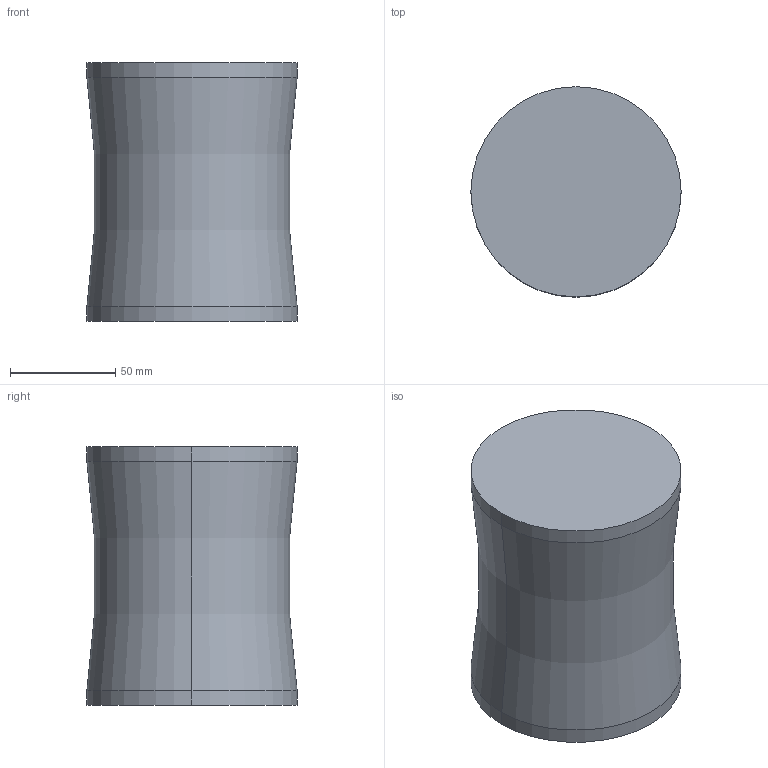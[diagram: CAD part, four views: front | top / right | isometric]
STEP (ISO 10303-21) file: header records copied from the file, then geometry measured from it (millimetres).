
FILE_DESCRIPTION(/* description */ (''),/* implementation_level */ '2;1');
FILE_NAME(/* name */ '3d_ex100120_06516_r00.stp',/* time_stamp */ '2011-01-10T14:15:38+09:00',/* author */ ('MISUMI'),/* organization */ (''),/* preprocessor_version */ 'ST-DEVELOPER v11',/* originating_system */ 'UGS - NX 5.0',/* authorisation */ '');
FILE_SCHEMA (('CONFIG_CONTROL_DESIGN'));
Length unit declared in the file: millimetre
Products named in the file (1): 3d_ex100120_06516_r00
Bounding box: 100 x 100 x 123 mm (x, y, z)
Volume: 877487 mm3; surface area: 52639 mm2
Topology: 1 solids, 1 shells, 8 faces, 14 edges, 8 vertices
Faces by surface type: cylinder 4, plane 2, torus 2
Entity records: 282 total; most frequent: DIRECTION 42, CARTESIAN_POINT 31, ORIENTED_EDGE 28, AXIS2_PLACEMENT_3D 19, EDGE_CURVE 14, CIRCLE 10, ADVANCED_FACE 8, FACE_OUTER_BOUND 8
